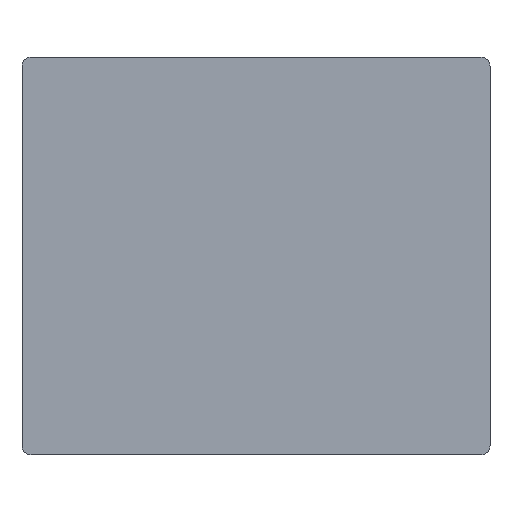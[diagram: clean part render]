
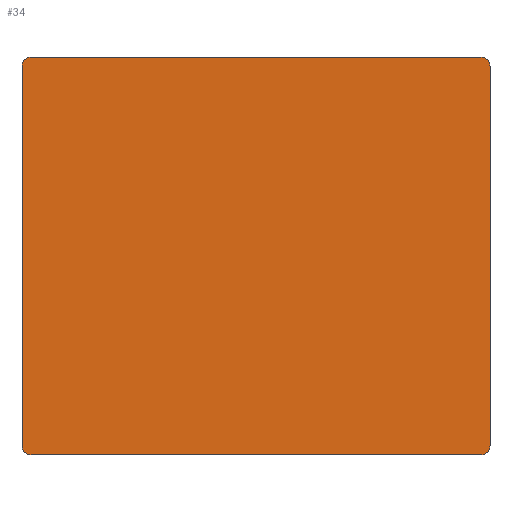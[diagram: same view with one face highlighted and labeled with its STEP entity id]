
A CAD part, top view. The second image highlights one B-rep face of the part: STEP entity #34.
In plain terms, the highlighted planar face has unit normal (0, 0, 1).
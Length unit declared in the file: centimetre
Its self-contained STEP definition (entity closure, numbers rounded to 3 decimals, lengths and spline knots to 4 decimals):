
#34=ADVANCED_FACE($,(#52),#285,.T.);
#52=FACE_OUTER_BOUND($,#70,.T.);
#70=EDGE_LOOP($,(#158,#159,#160,#161,#162,#163,#164,#165));
#158=ORIENTED_EDGE($,*,*,#220,.T.);
#159=ORIENTED_EDGE($,*,*,#227,.T.);
#160=ORIENTED_EDGE($,*,*,#221,.T.);
#161=ORIENTED_EDGE($,*,*,#224,.T.);
#162=ORIENTED_EDGE($,*,*,#222,.T.);
#163=ORIENTED_EDGE($,*,*,#225,.T.);
#164=ORIENTED_EDGE($,*,*,#223,.T.);
#165=ORIENTED_EDGE($,*,*,#226,.T.);
#220=EDGE_CURVE($,#260,#262,#330,.T.);
#221=EDGE_CURVE($,#263,#264,#331,.T.);
#222=EDGE_CURVE($,#261,#265,#332,.T.);
#223=EDGE_CURVE($,#266,#267,#333,.T.);
#224=EDGE_CURVE($,#264,#261,#334,.T.);
#225=EDGE_CURVE($,#265,#266,#335,.T.);
#226=EDGE_CURVE($,#267,#260,#336,.T.);
#227=EDGE_CURVE($,#262,#263,#337,.T.);
#260=VERTEX_POINT($,#1018);
#261=VERTEX_POINT($,#1019);
#262=VERTEX_POINT($,#1020);
#263=VERTEX_POINT($,#1021);
#264=VERTEX_POINT($,#1022);
#265=VERTEX_POINT($,#1023);
#266=VERTEX_POINT($,#1024);
#267=VERTEX_POINT($,#1025);
#285=PLANE($,#431);
#330=B_SPLINE_CURVE_WITH_KNOTS($,3,(#944,#945,#946,#947),.UNSPECIFIED.,.F.,
.F.,(4,4),(0.,31.4159),.UNSPECIFIED.);
#331=B_SPLINE_CURVE_WITH_KNOTS($,3,(#948,#949,#950,#951,#952,#953),.UNSPECIFIED.,
.F.,.F.,(4,2,4),(841.4159,872.7564,874.0325),.UNSPECIFIED.);
#332=B_SPLINE_CURVE_WITH_KNOTS($,3,(#954,#955,#956,#957),.UNSPECIFIED.,.F.,
.F.,(4,4),(1832.8319,1864.2478),.UNSPECIFIED.);
#333=B_SPLINE_CURVE_WITH_KNOTS($,3,(#958,#959,#960,#961,#962,#963),.UNSPECIFIED.,
.F.,.F.,(4,2,4),(2674.2478,2705.5883,2706.8644),.UNSPECIFIED.);
#334=B_SPLINE_CURVE_WITH_KNOTS($,1,(#964,#965),.UNSPECIFIED.,.F.,.F.,(2,
2),(-0.0392,96.),.UNSPECIFIED.);
#335=B_SPLINE_CURVE_WITH_KNOTS($,1,(#966,#967),.UNSPECIFIED.,.F.,.F.,(2,
2),(-83.,-2.),.UNSPECIFIED.);
#336=B_SPLINE_CURVE_WITH_KNOTS($,1,(#968,#969),.UNSPECIFIED.,.F.,.F.,(2,
2),(-96.0392,0.),.UNSPECIFIED.);
#337=B_SPLINE_CURVE_WITH_KNOTS($,1,(#970,#971),.UNSPECIFIED.,.F.,.F.,(2,
2),(2.,83.),.UNSPECIFIED.);
#431=AXIS2_PLACEMENT_3D($,#991,#440,$);
#440=DIRECTION($,(0.,0.,1.));
#944=CARTESIAN_POINT($,(3.3201,85.9946,31.7));
#945=CARTESIAN_POINT($,(2.2155,85.9946,31.7));
#946=CARTESIAN_POINT($,(1.3201,85.0992,31.7));
#947=CARTESIAN_POINT($,(1.3201,83.9946,31.7));
#948=CARTESIAN_POINT($,(1.3201,2.9946,31.7));
#949=CARTESIAN_POINT($,(1.3201,1.9482,31.7));
#950=CARTESIAN_POINT($,(2.1252,1.0871,31.7));
#951=CARTESIAN_POINT($,(3.1965,0.9996,31.7));
#952=CARTESIAN_POINT($,(3.2386,0.9969,31.7));
#953=CARTESIAN_POINT($,(3.2809,0.995,31.7));
#954=CARTESIAN_POINT($,(99.3201,0.9946,31.7));
#955=CARTESIAN_POINT($,(100.4247,0.9946,31.7));
#956=CARTESIAN_POINT($,(101.3201,1.89,31.7));
#957=CARTESIAN_POINT($,(101.3201,2.9946,31.7));
#958=CARTESIAN_POINT($,(101.3201,83.9946,31.7));
#959=CARTESIAN_POINT($,(101.3201,85.041,31.7));
#960=CARTESIAN_POINT($,(100.515,85.9021,31.7));
#961=CARTESIAN_POINT($,(99.4437,85.9896,31.7));
#962=CARTESIAN_POINT($,(99.4016,85.9922,31.7));
#963=CARTESIAN_POINT($,(99.3594,85.9942,31.7));
#964=CARTESIAN_POINT($,(3.2809,0.995,31.7));
#965=CARTESIAN_POINT($,(99.3201,0.9946,31.7));
#966=CARTESIAN_POINT($,(101.3201,2.9946,31.7));
#967=CARTESIAN_POINT($,(101.3201,83.9946,31.7));
#968=CARTESIAN_POINT($,(99.3594,85.9942,31.7));
#969=CARTESIAN_POINT($,(3.3201,85.9946,31.7));
#970=CARTESIAN_POINT($,(1.3201,83.9946,31.7));
#971=CARTESIAN_POINT($,(1.3201,2.9946,31.7));
#991=CARTESIAN_POINT($,(1.3201,0.9946,31.7));
#1018=CARTESIAN_POINT($,(3.3201,85.9946,31.7));
#1019=CARTESIAN_POINT($,(99.3201,0.9946,31.7));
#1020=CARTESIAN_POINT($,(1.3201,83.9946,31.7));
#1021=CARTESIAN_POINT($,(1.3201,2.9946,31.7));
#1022=CARTESIAN_POINT($,(3.2809,0.995,31.7));
#1023=CARTESIAN_POINT($,(101.3201,2.9946,31.7));
#1024=CARTESIAN_POINT($,(101.3201,83.9946,31.7));
#1025=CARTESIAN_POINT($,(99.3594,85.9942,31.7));
